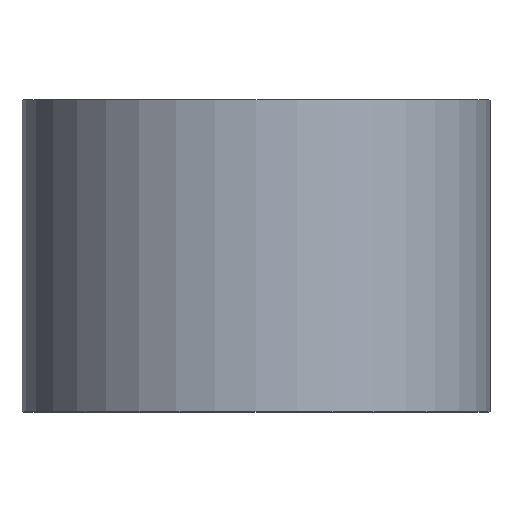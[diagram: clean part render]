
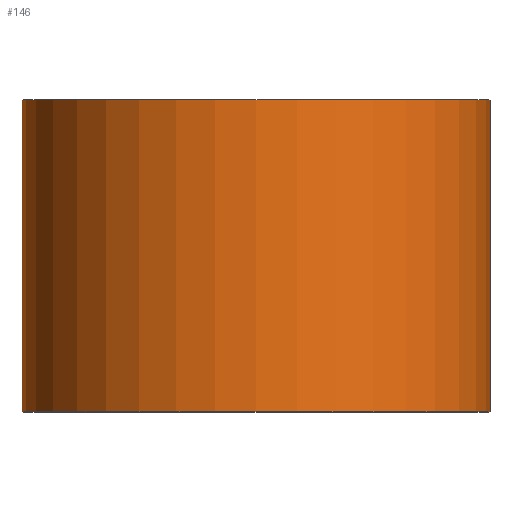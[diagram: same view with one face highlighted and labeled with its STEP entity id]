
A CAD part, top view. The second image highlights one B-rep face of the part: STEP entity #146.
In plain terms, the highlighted cylindrical face has radius 15 mm (diameter 30 mm), a partial arc.
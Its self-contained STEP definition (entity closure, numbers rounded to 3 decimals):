
#6 = CIRCLE ( 'NONE', #287, 15. ) ;
#17 = ORIENTED_EDGE ( 'NONE', *, *, #261, .T. ) ;
#18 = CARTESIAN_POINT ( 'NONE',  ( 15., 0., 0. ) ) ;
#44 = AXIS2_PLACEMENT_3D ( 'NONE', #106, #271, #127 ) ;
#50 = DIRECTION ( 'NONE',  ( 0., 1., 0. ) ) ;
#63 = CARTESIAN_POINT ( 'NONE',  ( -15., 0., 0. ) ) ;
#67 = EDGE_CURVE ( 'NONE', #243, #102, #193, .T. ) ;
#72 = CARTESIAN_POINT ( 'NONE',  ( 0., 0., 0. ) ) ;
#80 = CARTESIAN_POINT ( 'NONE',  ( 0., 0., 0. ) ) ;
#88 = ORIENTED_EDGE ( 'NONE', *, *, #90, .F. ) ;
#90 = EDGE_CURVE ( 'NONE', #102, #175, #251, .T. ) ;
#102 = VERTEX_POINT ( 'NONE', #192 ) ;
#106 = CARTESIAN_POINT ( 'NONE',  ( 0., 20., 0. ) ) ;
#111 = VERTEX_POINT ( 'NONE', #18 ) ;
#112 = ORIENTED_EDGE ( 'NONE', *, *, #67, .F. ) ;
#115 = AXIS2_PLACEMENT_3D ( 'NONE', #72, #276, #159 ) ;
#118 = VECTOR ( 'NONE', #274, 1000. ) ;
#120 = DIRECTION ( 'NONE',  ( -1., 0., 0. ) ) ;
#126 = ORIENTED_EDGE ( 'NONE', *, *, #236, .T. ) ;
#127 = DIRECTION ( 'NONE',  ( -1., 0., 0. ) ) ;
#146 = ADVANCED_FACE ( 'NONE', ( #171 ), #184, .T. ) ;
#159 = DIRECTION ( 'NONE',  ( -1., 0., 0. ) ) ;
#164 = VECTOR ( 'NONE', #50, 1000. ) ;
#171 = FACE_OUTER_BOUND ( 'NONE', #211, .T. ) ;
#175 = VERTEX_POINT ( 'NONE', #249 ) ;
#184 = CYLINDRICAL_SURFACE ( 'NONE', #115, 15. ) ;
#185 = CARTESIAN_POINT ( 'NONE',  ( 15., 0., 0. ) ) ;
#192 = CARTESIAN_POINT ( 'NONE',  ( -15., 20., 0. ) ) ;
#193 = LINE ( 'NONE', #63, #118 ) ;
#203 = CARTESIAN_POINT ( 'NONE',  ( -15., 0., 0. ) ) ;
#207 = DIRECTION ( 'NONE',  ( 0., 1., 0. ) ) ;
#211 = EDGE_LOOP ( 'NONE', ( #126, #17, #88, #112 ) ) ;
#236 = EDGE_CURVE ( 'NONE', #243, #111, #6, .T. ) ;
#243 = VERTEX_POINT ( 'NONE', #203 ) ;
#249 = CARTESIAN_POINT ( 'NONE',  ( 15., 20., 0. ) ) ;
#251 = CIRCLE ( 'NONE', #44, 15. ) ;
#256 = LINE ( 'NONE', #185, #164 ) ;
#261 = EDGE_CURVE ( 'NONE', #111, #175, #256, .T. ) ;
#271 = DIRECTION ( 'NONE',  ( 0., 1., 0. ) ) ;
#274 = DIRECTION ( 'NONE',  ( 0., 1., 0. ) ) ;
#276 = DIRECTION ( 'NONE',  ( 0., 1., 0. ) ) ;
#287 = AXIS2_PLACEMENT_3D ( 'NONE', #80, #207, #120 ) ;
